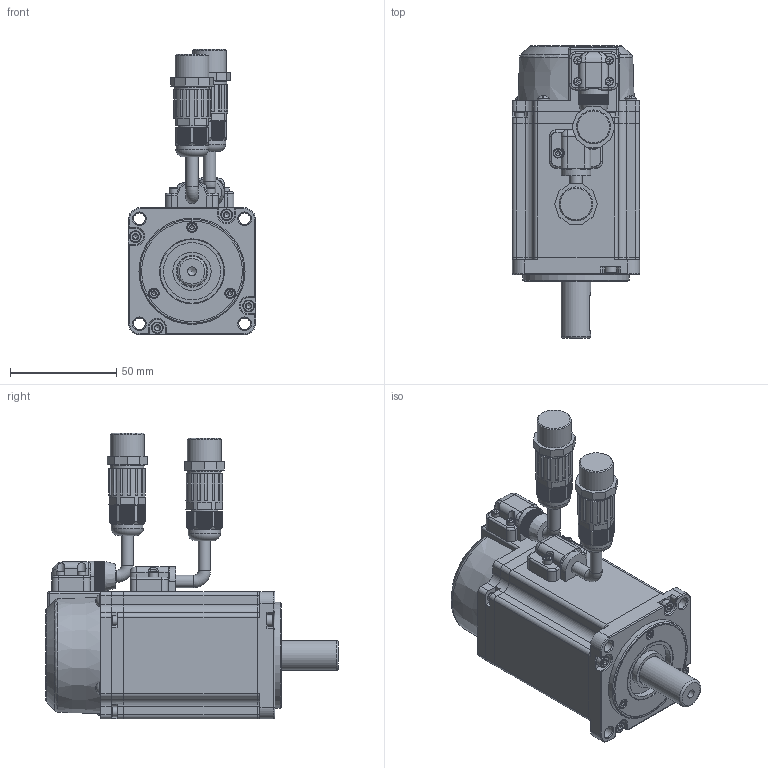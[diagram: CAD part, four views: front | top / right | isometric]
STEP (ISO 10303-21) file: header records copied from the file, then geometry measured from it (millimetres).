
FILE_DESCRIPTION(/* description */ (''),/* implementation_level */ '2;1');
FILE_NAME(/* name */ '60SY-M01330S1-5.stp',/* time_stamp */ '2024-01-04T10:41:10+08:00',/* author */ (''),/* organization */ (''),/* preprocessor_version */ 'ST-DEVELOPER v18.1',/* originating_system */ 'SIEMENS PLM Software NX 2000',/* authorisation */ '');
FILE_SCHEMA (('AUTOMOTIVE_DESIGN { 1 0 10303 214 3 1 1 1 }'));
Products named in the file (1): 60S1电机外形图(00630)
Bounding box: 60 x 138 x 134.76 mm (x, y, z)
Volume: 308923.3 mm3; surface area: 81577.6 mm2
Topology: 34 solids, 37 shells, 2707 faces, 7109 edges, 4520 vertices
Faces by surface type: plane 1736, cylinder 578, sphere 140, cone 137, torus 66, bspline 50
Full cylindrical faces by diameter (mm): 1.5 x4, 2 x8, 2.05 x3, 2.1 x4, 2.38 x9, 2.5 x6, 2.6 x4, 2.874 x4, 2.9 x3, 3.4 x8, 3.5 x4, 3.8 x4, 4.2 x1, 4.5 x9, 5 x3, 5.5 x8, 5.8 x5, 13 x2, 14 x1, 14.8 x1, 15 x1, 15.3 x2, 15.6 x2, 16 x2, 16.1 x2, 17.3 x2, 18 x1, 22.5 x1, 27 x1, 30 x2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
Entity records: 84071 total; most frequent: CARTESIAN_POINT 19982, ORIENTED_EDGE 13638, DIRECTION 12425, EDGE_CURVE 6819, VERTEX_POINT 4458, AXIS2_PLACEMENT_3D 4314, LINE 3797, VECTOR 3797
